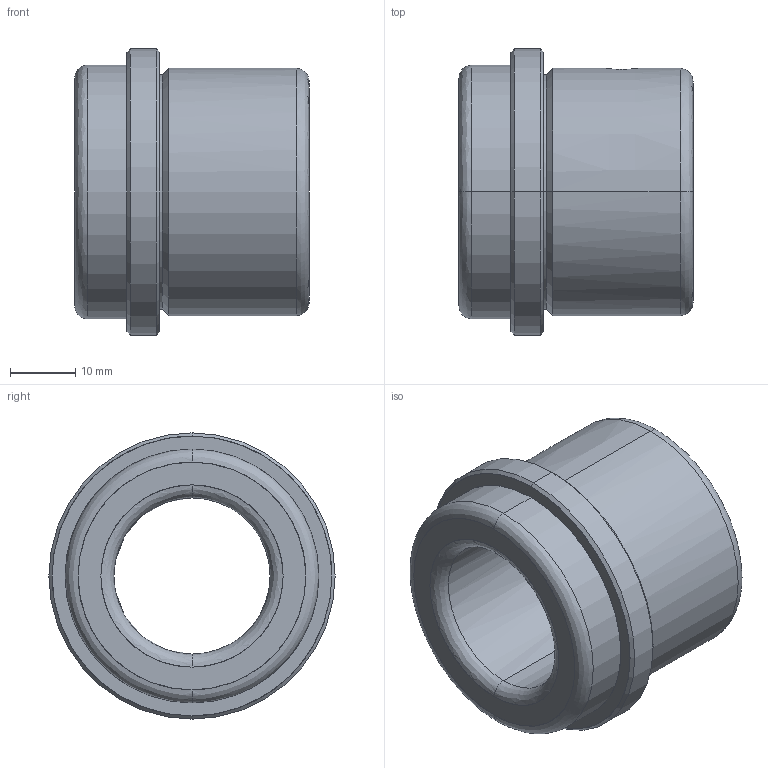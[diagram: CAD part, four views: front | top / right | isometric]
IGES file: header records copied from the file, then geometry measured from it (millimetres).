
Start section: START RECORD GO HERE.
Global section: file name: CF 631 24 x 36.igs; native system: DASSAULT SYSTEMES CATIA V5 R20 - www.3ds.com; preprocessor: CATIA Version 5 Release 20 ; author: Utente; organization: NB04-ASUS; date: 20201226.202055; units: millimetre
Bounding box: 36 x 44 x 44 mm (x, y, z)
Surface area: 9243.8 mm2 (no closed solid volume)
Topology: 0 solids, 0 shells, 33 faces, 212 edges, 212 vertices
Faces by surface type: revolution 28, plane 5
